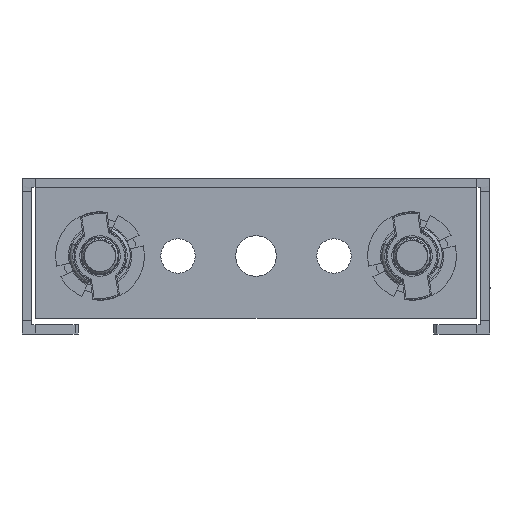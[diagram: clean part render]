
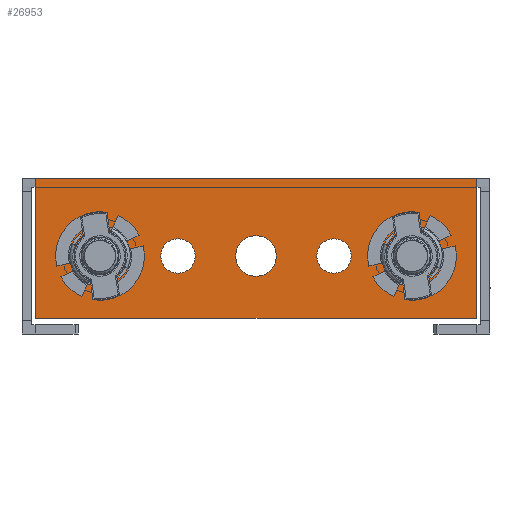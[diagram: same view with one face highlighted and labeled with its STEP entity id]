
A CAD part, left-side view. The second image highlights one B-rep face of the part: STEP entity #26953.
In plain terms, the highlighted planar face has unit normal (-1, 0, 0).
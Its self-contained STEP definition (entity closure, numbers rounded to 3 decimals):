
#12903 = VERTEX_POINT('',#12904);
#12904 = CARTESIAN_POINT('',(-249.,35.346,-0.));
#12911 = EDGE_CURVE('',#12912,#12903,#12914,.T.);
#12912 = VERTEX_POINT('',#12913);
#12913 = CARTESIAN_POINT('',(-249.,-35.346,0.));
#12914 = LINE('',#12915,#12916);
#12915 = CARTESIAN_POINT('',(-249.,0.,-0.));
#12916 = VECTOR('',#12917,1.);
#12917 = DIRECTION('',(-0.,1.,-0.));
#26754 = EDGE_CURVE('',#26755,#12912,#26757,.T.);
#26755 = VERTEX_POINT('',#26756);
#26756 = CARTESIAN_POINT('',(-249.,-35.293,-2.1));
#26757 = B_SPLINE_CURVE_WITH_KNOTS('',3,(#26758,#26759,#26760,#26761),
  .UNSPECIFIED.,.F.,.F.,(4,4),(0.002,0.004),
  .PIECEWISE_BEZIER_KNOTS.);
#26758 = CARTESIAN_POINT('',(-249.,-35.293,-2.1));
#26759 = CARTESIAN_POINT('',(-249.,-35.316,-1.4));
#26760 = CARTESIAN_POINT('',(-249.,-35.335,-0.7));
#26761 = CARTESIAN_POINT('',(-249.,-35.346,0.));
#26847 = EDGE_CURVE('',#26848,#12903,#26850,.T.);
#26848 = VERTEX_POINT('',#26849);
#26849 = CARTESIAN_POINT('',(-249.,35.293,-2.1));
#26850 = B_SPLINE_CURVE_WITH_KNOTS('',3,(#26851,#26852,#26853,#26854),
  .UNSPECIFIED.,.F.,.F.,(4,4),(0.002,0.004),
  .PIECEWISE_BEZIER_KNOTS.);
#26851 = CARTESIAN_POINT('',(-249.,35.293,-2.1));
#26852 = CARTESIAN_POINT('',(-249.,35.316,-1.4));
#26853 = CARTESIAN_POINT('',(-249.,35.335,-0.7));
#26854 = CARTESIAN_POINT('',(-249.,35.346,-0.));
#26929 = VERTEX_POINT('',#26930);
#26930 = CARTESIAN_POINT('',(-249.,-35.293,-22.5));
#26943 = EDGE_CURVE('',#26755,#26929,#26944,.T.);
#26944 = LINE('',#26945,#26946);
#26945 = CARTESIAN_POINT('',(-249.,-35.293,-1.5));
#26946 = VECTOR('',#26947,1.);
#26947 = DIRECTION('',(0.,0.,-1.));
#26953 = ADVANCED_FACE('',(#26954,#26965,#26976,#26987,#26998,#27009),
  #27029,.F.);
#26954 = FACE_BOUND('',#26955,.T.);
#26955 = EDGE_LOOP('',(#26956));
#26956 = ORIENTED_EDGE('',*,*,#26957,.F.);
#26957 = EDGE_CURVE('',#26958,#26958,#26960,.T.);
#26958 = VERTEX_POINT('',#26959);
#26959 = CARTESIAN_POINT('',(-249.,-12.5,-9.75));
#26960 = CIRCLE('',#26961,2.75);
#26961 = AXIS2_PLACEMENT_3D('',#26962,#26963,#26964);
#26962 = CARTESIAN_POINT('',(-249.,-12.5,-12.5));
#26963 = DIRECTION('',(-1.,0.,0.));
#26964 = DIRECTION('',(0.,0.,1.));
#26965 = FACE_BOUND('',#26966,.T.);
#26966 = EDGE_LOOP('',(#26967));
#26967 = ORIENTED_EDGE('',*,*,#26968,.F.);
#26968 = EDGE_CURVE('',#26969,#26969,#26971,.T.);
#26969 = VERTEX_POINT('',#26970);
#26970 = CARTESIAN_POINT('',(-249.,12.5,-15.25));
#26971 = CIRCLE('',#26972,2.75);
#26972 = AXIS2_PLACEMENT_3D('',#26973,#26974,#26975);
#26973 = CARTESIAN_POINT('',(-249.,12.5,-12.5));
#26974 = DIRECTION('',(-1.,0.,0.));
#26975 = DIRECTION('',(0.,0.,-1.));
#26976 = FACE_BOUND('',#26977,.T.);
#26977 = EDGE_LOOP('',(#26978));
#26978 = ORIENTED_EDGE('',*,*,#26979,.F.);
#26979 = EDGE_CURVE('',#26980,#26980,#26982,.T.);
#26980 = VERTEX_POINT('',#26981);
#26981 = CARTESIAN_POINT('',(-249.,25.,-15.75));
#26982 = CIRCLE('',#26983,3.25);
#26983 = AXIS2_PLACEMENT_3D('',#26984,#26985,#26986);
#26984 = CARTESIAN_POINT('',(-249.,25.,-12.5));
#26985 = DIRECTION('',(-1.,0.,0.));
#26986 = DIRECTION('',(0.,0.,-1.));
#26987 = FACE_BOUND('',#26988,.T.);
#26988 = EDGE_LOOP('',(#26989));
#26989 = ORIENTED_EDGE('',*,*,#26990,.F.);
#26990 = EDGE_CURVE('',#26991,#26991,#26993,.T.);
#26991 = VERTEX_POINT('',#26992);
#26992 = CARTESIAN_POINT('',(-249.,-25.,-9.25));
#26993 = CIRCLE('',#26994,3.25);
#26994 = AXIS2_PLACEMENT_3D('',#26995,#26996,#26997);
#26995 = CARTESIAN_POINT('',(-249.,-25.,-12.5));
#26996 = DIRECTION('',(-1.,0.,0.));
#26997 = DIRECTION('',(0.,0.,1.));
#26998 = FACE_BOUND('',#26999,.T.);
#26999 = EDGE_LOOP('',(#27000));
#27000 = ORIENTED_EDGE('',*,*,#27001,.F.);
#27001 = EDGE_CURVE('',#27002,#27002,#27004,.T.);
#27002 = VERTEX_POINT('',#27003);
#27003 = CARTESIAN_POINT('',(-249.,0.,-9.25));
#27004 = CIRCLE('',#27005,3.25);
#27005 = AXIS2_PLACEMENT_3D('',#27006,#27007,#27008);
#27006 = CARTESIAN_POINT('',(-249.,0.,-12.5));
#27007 = DIRECTION('',(-1.,0.,0.));
#27008 = DIRECTION('',(0.,0.,1.));
#27009 = FACE_BOUND('',#27010,.T.);
#27010 = EDGE_LOOP('',(#27011,#27012,#27013,#27014,#27015,#27023));
#27011 = ORIENTED_EDGE('',*,*,#26943,.F.);
#27012 = ORIENTED_EDGE('',*,*,#26754,.T.);
#27013 = ORIENTED_EDGE('',*,*,#12911,.T.);
#27014 = ORIENTED_EDGE('',*,*,#26847,.F.);
#27015 = ORIENTED_EDGE('',*,*,#27016,.T.);
#27016 = EDGE_CURVE('',#26848,#27017,#27019,.T.);
#27017 = VERTEX_POINT('',#27018);
#27018 = CARTESIAN_POINT('',(-249.,35.293,-22.5));
#27019 = LINE('',#27020,#27021);
#27020 = CARTESIAN_POINT('',(-249.,35.293,0.));
#27021 = VECTOR('',#27022,1.);
#27022 = DIRECTION('',(0.,0.,-1.));
#27023 = ORIENTED_EDGE('',*,*,#27024,.F.);
#27024 = EDGE_CURVE('',#26929,#27017,#27025,.T.);
#27025 = LINE('',#27026,#27027);
#27026 = CARTESIAN_POINT('',(-249.,-37.5,-22.5));
#27027 = VECTOR('',#27028,1.);
#27028 = DIRECTION('',(-0.,1.,-0.));
#27029 = PLANE('',#27030);
#27030 = AXIS2_PLACEMENT_3D('',#27031,#27032,#27033);
#27031 = CARTESIAN_POINT('',(-249.,0.,0.));
#27032 = DIRECTION('',(1.,0.,0.));
#27033 = DIRECTION('',(0.,0.,-1.));
